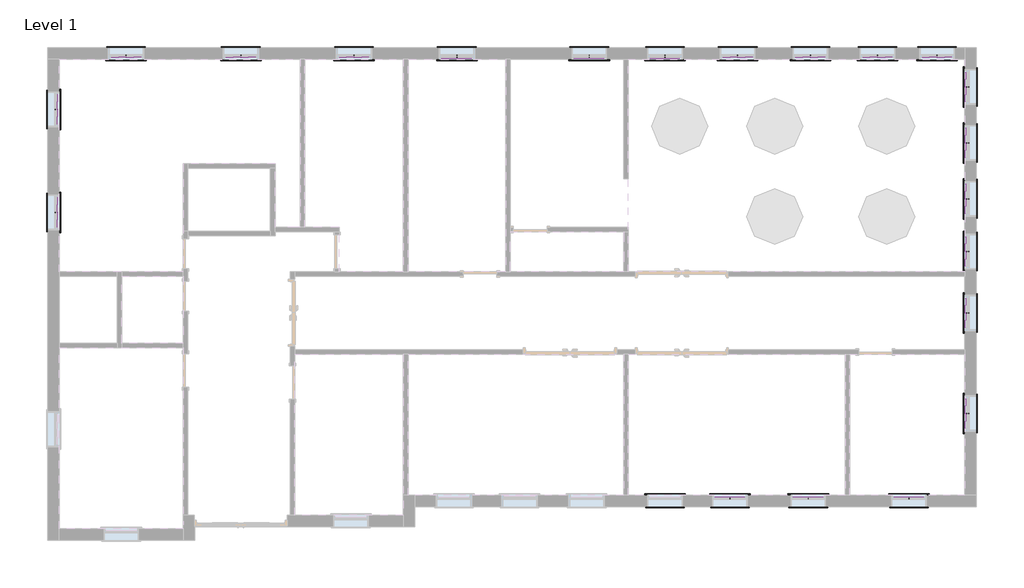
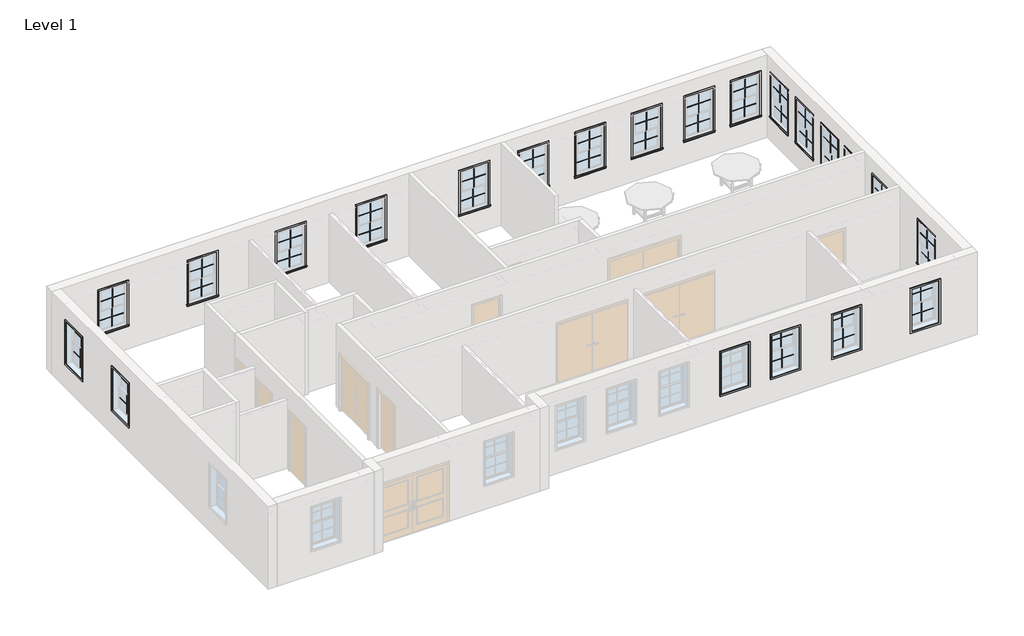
# One storey, part 3 of 3: 86 proxies.
"""IFC4 building model written with IfcOpenShell, lengths in millimetres."""

from ifc_helpers import new_model, si_unit, origin, place, context, project, spatial, transform, mapped, element, save
from components import muntin_pattern_2x2_muntin_pattern_2x2_3f1d5025, trim_window_exterior_flat_with_sill_11ed3377, trim_window_interior_flat_picture_frame_21512d7e

model = new_model("IFC4")

# Units and contexts
model_context = context("Model", 3, world=origin())
ifc_project = project(units=[si_unit("LENGTHUNIT", "METRE", prefix="MILLI")], contexts=[model_context])

# Site, building, storey
site = spatial("IfcSite", under=ifc_project)
building = spatial("IfcBuilding", under=site)
storey = spatial("IfcBuildingStorey", under=building, Name="Level 1", Elevation=0.0)

# Proxies
placement = place(None, origin())
muntin_pattern_2x2_muntin_pattern_2x2_shape = muntin_pattern_2x2_muntin_pattern_2x2_3f1d5025(model_context)
element("IfcBuildingElementProxy", 1, Name="Muntin Pattern_2x2 : Muntin Pattern_2x2", ObjectType="Muntin Pattern_2x2 : Muntin Pattern_2x2", at=placement, inside=storey, context=model_context, shape_type="MappedRepresentation", body=[
    mapped(muntin_pattern_2x2_muntin_pattern_2x2_shape, transform((4183.6666807, 6365.6417452, 1724.025), x_axis=(-1.0, 0.0, 0.0), y_axis=(0.0, -1.0, 0.0), z_axis=(0.0, 0.0, 1.0))),
])
element("IfcBuildingElementProxy", 2, Name="Muntin Pattern_2x2 : Muntin Pattern_2x2", ObjectType="Muntin Pattern_2x2 : Muntin Pattern_2x2", at=placement, inside=storey, context=model_context, shape_type="MappedRepresentation", body=[
    mapped(muntin_pattern_2x2_muntin_pattern_2x2_shape, transform((4183.6666807, 6410.0917452, 990.6), x_axis=(-1.0, 0.0, 0.0), y_axis=(0.0, -1.0, 0.0), z_axis=(0.0, 0.0, 1.0))),
])
element("IfcBuildingElementProxy", 3, Name="Muntin Pattern_2x2 : Muntin Pattern_2x2", ObjectType="Muntin Pattern_2x2 : Muntin Pattern_2x2", at=placement, inside=storey, context=model_context, shape_type="MappedRepresentation", body=[
    mapped(muntin_pattern_2x2_muntin_pattern_2x2_shape, transform((6164.8666807, 6365.6417452, 1724.025), x_axis=(-1.0, 0.0, 0.0), y_axis=(0.0, -1.0, 0.0), z_axis=(0.0, 0.0, 1.0))),
])
element("IfcBuildingElementProxy", 4, Name="Muntin Pattern_2x2 : Muntin Pattern_2x2", ObjectType="Muntin Pattern_2x2 : Muntin Pattern_2x2", at=placement, inside=storey, context=model_context, shape_type="MappedRepresentation", body=[
    mapped(muntin_pattern_2x2_muntin_pattern_2x2_shape, transform((6164.8666807, 6410.0917452, 990.6), x_axis=(-1.0, 0.0, 0.0), y_axis=(0.0, -1.0, 0.0), z_axis=(0.0, 0.0, 1.0))),
])
element("IfcBuildingElementProxy", 5, Name="Muntin Pattern_2x2 : Muntin Pattern_2x2", ObjectType="Muntin Pattern_2x2 : Muntin Pattern_2x2", at=placement, inside=storey, context=model_context, shape_type="MappedRepresentation", body=[
    mapped(muntin_pattern_2x2_muntin_pattern_2x2_shape, transform((8146.0666807, 6365.6417452, 1724.025), x_axis=(-1.0, 0.0, 0.0), y_axis=(0.0, -1.0, 0.0), z_axis=(0.0, 0.0, 1.0))),
])
element("IfcBuildingElementProxy", 6, Name="Muntin Pattern_2x2 : Muntin Pattern_2x2", ObjectType="Muntin Pattern_2x2 : Muntin Pattern_2x2", at=placement, inside=storey, context=model_context, shape_type="MappedRepresentation", body=[
    mapped(muntin_pattern_2x2_muntin_pattern_2x2_shape, transform((8146.0666807, 6410.0917452, 990.6), x_axis=(-1.0, 0.0, 0.0), y_axis=(0.0, -1.0, 0.0), z_axis=(0.0, 0.0, 1.0))),
])
element("IfcBuildingElementProxy", 7, Name="Muntin Pattern_2x2 : Muntin Pattern_2x2", ObjectType="Muntin Pattern_2x2 : Muntin Pattern_2x2", at=placement, inside=storey, context=model_context, shape_type="MappedRepresentation", body=[
    mapped(muntin_pattern_2x2_muntin_pattern_2x2_shape, transform((9974.8666807, 6365.6417452, 1724.025), x_axis=(-1.0, 0.0, 0.0), y_axis=(0.0, -1.0, 0.0), z_axis=(0.0, 0.0, 1.0))),
])
element("IfcBuildingElementProxy", 8, Name="Muntin Pattern_2x2 : Muntin Pattern_2x2", ObjectType="Muntin Pattern_2x2 : Muntin Pattern_2x2", at=placement, inside=storey, context=model_context, shape_type="MappedRepresentation", body=[
    mapped(muntin_pattern_2x2_muntin_pattern_2x2_shape, transform((9974.8666807, 6410.0917452, 990.6), x_axis=(-1.0, 0.0, 0.0), y_axis=(0.0, -1.0, 0.0), z_axis=(0.0, 0.0, 1.0))),
])
element("IfcBuildingElementProxy", 9, Name="Muntin Pattern_2x2 : Muntin Pattern_2x2", ObjectType="Muntin Pattern_2x2 : Muntin Pattern_2x2", at=placement, inside=storey, context=model_context, shape_type="MappedRepresentation", body=[
    mapped(muntin_pattern_2x2_muntin_pattern_2x2_shape, transform((11596.7284774, 6365.6417452, 1724.025), x_axis=(-1.0, 0.0, 0.0), y_axis=(0.0, -1.0, 0.0), z_axis=(0.0, 0.0, 1.0))),
])
element("IfcBuildingElementProxy", 10, Name="Muntin Pattern_2x2 : Muntin Pattern_2x2", ObjectType="Muntin Pattern_2x2 : Muntin Pattern_2x2", at=placement, inside=storey, context=model_context, shape_type="MappedRepresentation", body=[
    mapped(muntin_pattern_2x2_muntin_pattern_2x2_shape, transform((11596.7284774, 6410.0917452, 990.6), x_axis=(-1.0, 0.0, 0.0), y_axis=(0.0, -1.0, 0.0), z_axis=(0.0, 0.0, 1.0))),
])
element("IfcBuildingElementProxy", 11, Name="Muntin Pattern_2x2 : Muntin Pattern_2x2", ObjectType="Muntin Pattern_2x2 : Muntin Pattern_2x2", at=placement, inside=storey, context=model_context, shape_type="MappedRepresentation", body=[
    mapped(muntin_pattern_2x2_muntin_pattern_2x2_shape, transform((12390.4784774, 5571.8917452, 1724.025), x_axis=(0.0, 1.0, 0.0), y_axis=(-1.0, 0.0, 0.0), z_axis=(0.0, 0.0, 1.0))),
])
element("IfcBuildingElementProxy", 12, Name="Muntin Pattern_2x2 : Muntin Pattern_2x2", ObjectType="Muntin Pattern_2x2 : Muntin Pattern_2x2", at=placement, inside=storey, context=model_context, shape_type="MappedRepresentation", body=[
    mapped(muntin_pattern_2x2_muntin_pattern_2x2_shape, transform((12434.9284774, 5571.8917452, 990.6), x_axis=(0.0, 1.0, 0.0), y_axis=(-1.0, 0.0, 0.0), z_axis=(0.0, 0.0, 1.0))),
])
element("IfcBuildingElementProxy", 13, Name="Muntin Pattern_2x2 : Muntin Pattern_2x2", ObjectType="Muntin Pattern_2x2 : Muntin Pattern_2x2", at=placement, inside=storey, context=model_context, shape_type="MappedRepresentation", body=[
    mapped(muntin_pattern_2x2_muntin_pattern_2x2_shape, transform((12390.4784774, 4047.8917452, 1724.025), x_axis=(0.0, 1.0, 0.0), y_axis=(-1.0, 0.0, 0.0), z_axis=(0.0, 0.0, 1.0))),
])
element("IfcBuildingElementProxy", 14, Name="Muntin Pattern_2x2 : Muntin Pattern_2x2", ObjectType="Muntin Pattern_2x2 : Muntin Pattern_2x2", at=placement, inside=storey, context=model_context, shape_type="MappedRepresentation", body=[
    mapped(muntin_pattern_2x2_muntin_pattern_2x2_shape, transform((12434.9284774, 4047.8917452, 990.6), x_axis=(0.0, 1.0, 0.0), y_axis=(-1.0, 0.0, 0.0), z_axis=(0.0, 0.0, 1.0))),
])
element("IfcBuildingElementProxy", 15, Name="Muntin Pattern_2x2 : Muntin Pattern_2x2", ObjectType="Muntin Pattern_2x2 : Muntin Pattern_2x2", at=placement, inside=storey, context=model_context, shape_type="MappedRepresentation", body=[
    mapped(muntin_pattern_2x2_muntin_pattern_2x2_shape, transform((12390.4784774, 2523.8917452, 1724.025), x_axis=(0.0, 1.0, 0.0), y_axis=(-1.0, 0.0, 0.0), z_axis=(0.0, 0.0, 1.0))),
])
element("IfcBuildingElementProxy", 16, Name="Muntin Pattern_2x2 : Muntin Pattern_2x2", ObjectType="Muntin Pattern_2x2 : Muntin Pattern_2x2", at=placement, inside=storey, context=model_context, shape_type="MappedRepresentation", body=[
    mapped(muntin_pattern_2x2_muntin_pattern_2x2_shape, transform((12434.9284774, 2523.8917452, 990.6), x_axis=(0.0, 1.0, 0.0), y_axis=(-1.0, 0.0, 0.0), z_axis=(0.0, 0.0, 1.0))),
])
element("IfcBuildingElementProxy", 17, Name="Muntin Pattern_2x2 : Muntin Pattern_2x2", ObjectType="Muntin Pattern_2x2 : Muntin Pattern_2x2", at=placement, inside=storey, context=model_context, shape_type="MappedRepresentation", body=[
    mapped(muntin_pattern_2x2_muntin_pattern_2x2_shape, transform((12390.4784774, 1087.0237982, 1724.025), x_axis=(0.0, 1.0, 0.0), y_axis=(-1.0, 0.0, 0.0), z_axis=(0.0, 0.0, 1.0))),
])
element("IfcBuildingElementProxy", 18, Name="Muntin Pattern_2x2 : Muntin Pattern_2x2", ObjectType="Muntin Pattern_2x2 : Muntin Pattern_2x2", at=placement, inside=storey, context=model_context, shape_type="MappedRepresentation", body=[
    mapped(muntin_pattern_2x2_muntin_pattern_2x2_shape, transform((12434.9284774, 1087.0237982, 990.6), x_axis=(0.0, 1.0, 0.0), y_axis=(-1.0, 0.0, 0.0), z_axis=(0.0, 0.0, 1.0))),
])
element("IfcBuildingElementProxy", 19, Name="Muntin Pattern_2x2 : Muntin Pattern_2x2", ObjectType="Muntin Pattern_2x2 : Muntin Pattern_2x2", at=placement, inside=storey, context=model_context, shape_type="MappedRepresentation", body=[
    mapped(muntin_pattern_2x2_muntin_pattern_2x2_shape, transform((12390.4784774, -585.4878233, 1724.025), x_axis=(0.0, 1.0, 0.0), y_axis=(-1.0, 0.0, 0.0), z_axis=(0.0, 0.0, 1.0))),
])
element("IfcBuildingElementProxy", 20, Name="Muntin Pattern_2x2 : Muntin Pattern_2x2", ObjectType="Muntin Pattern_2x2 : Muntin Pattern_2x2", at=placement, inside=storey, context=model_context, shape_type="MappedRepresentation", body=[
    mapped(muntin_pattern_2x2_muntin_pattern_2x2_shape, transform((12434.9284774, -585.4878233, 990.6), x_axis=(0.0, 1.0, 0.0), y_axis=(-1.0, 0.0, 0.0), z_axis=(0.0, 0.0, 1.0))),
])
element("IfcBuildingElementProxy", 21, Name="Muntin Pattern_2x2 : Muntin Pattern_2x2", ObjectType="Muntin Pattern_2x2 : Muntin Pattern_2x2", at=placement, inside=storey, context=model_context, shape_type="MappedRepresentation", body=[
    mapped(muntin_pattern_2x2_muntin_pattern_2x2_shape, transform((12390.4784774, -3324.7994449, 1724.025), x_axis=(0.0, 1.0, 0.0), y_axis=(-1.0, 0.0, 0.0), z_axis=(0.0, 0.0, 1.0))),
])
element("IfcBuildingElementProxy", 22, Name="Muntin Pattern_2x2 : Muntin Pattern_2x2", ObjectType="Muntin Pattern_2x2 : Muntin Pattern_2x2", at=placement, inside=storey, context=model_context, shape_type="MappedRepresentation", body=[
    mapped(muntin_pattern_2x2_muntin_pattern_2x2_shape, transform((12434.9284774, -3324.7994449, 990.6), x_axis=(0.0, 1.0, 0.0), y_axis=(-1.0, 0.0, 0.0), z_axis=(0.0, 0.0, 1.0))),
])
element("IfcBuildingElementProxy", 23, Name="Muntin Pattern_2x2 : Muntin Pattern_2x2", ObjectType="Muntin Pattern_2x2 : Muntin Pattern_2x2", at=placement, inside=storey, context=model_context, shape_type="MappedRepresentation", body=[
    mapped(muntin_pattern_2x2_muntin_pattern_2x2_shape, transform((10832.4883888, -5585.0582548, 1724.025), x_axis=(1.0, 0.0, 0.0), y_axis=(0.0, 1.0, 0.0), z_axis=(0.0, 0.0, 1.0))),
])
element("IfcBuildingElementProxy", 24, Name="Muntin Pattern_2x2 : Muntin Pattern_2x2", ObjectType="Muntin Pattern_2x2 : Muntin Pattern_2x2", at=placement, inside=storey, context=model_context, shape_type="MappedRepresentation", body=[
    mapped(muntin_pattern_2x2_muntin_pattern_2x2_shape, transform((10832.4883888, -5629.5082548, 990.6), x_axis=(1.0, 0.0, 0.0), y_axis=(0.0, 1.0, 0.0), z_axis=(0.0, 0.0, 1.0))),
])
element("IfcBuildingElementProxy", 25, Name="Muntin Pattern_2x2 : Muntin Pattern_2x2", ObjectType="Muntin Pattern_2x2 : Muntin Pattern_2x2", at=placement, inside=storey, context=model_context, shape_type="MappedRepresentation", body=[
    mapped(muntin_pattern_2x2_muntin_pattern_2x2_shape, transform((8087.0483002, -5585.0582548, 1724.025), x_axis=(1.0, 0.0, 0.0), y_axis=(0.0, 1.0, 0.0), z_axis=(0.0, 0.0, 1.0))),
])
element("IfcBuildingElementProxy", 26, Name="Muntin Pattern_2x2 : Muntin Pattern_2x2", ObjectType="Muntin Pattern_2x2 : Muntin Pattern_2x2", at=placement, inside=storey, context=model_context, shape_type="MappedRepresentation", body=[
    mapped(muntin_pattern_2x2_muntin_pattern_2x2_shape, transform((8087.0483002, -5629.5082548, 990.6), x_axis=(1.0, 0.0, 0.0), y_axis=(0.0, 1.0, 0.0), z_axis=(0.0, 0.0, 1.0))),
])
element("IfcBuildingElementProxy", 27, Name="Muntin Pattern_2x2 : Muntin Pattern_2x2", ObjectType="Muntin Pattern_2x2 : Muntin Pattern_2x2", at=placement, inside=storey, context=model_context, shape_type="MappedRepresentation", body=[
    mapped(muntin_pattern_2x2_muntin_pattern_2x2_shape, transform((5953.4483002, -5585.0582548, 1724.025), x_axis=(1.0, 0.0, 0.0), y_axis=(0.0, 1.0, 0.0), z_axis=(0.0, 0.0, 1.0))),
])
element("IfcBuildingElementProxy", 28, Name="Muntin Pattern_2x2 : Muntin Pattern_2x2", ObjectType="Muntin Pattern_2x2 : Muntin Pattern_2x2", at=placement, inside=storey, context=model_context, shape_type="MappedRepresentation", body=[
    mapped(muntin_pattern_2x2_muntin_pattern_2x2_shape, transform((5953.4483002, -5629.5082548, 990.6), x_axis=(1.0, 0.0, 0.0), y_axis=(0.0, 1.0, 0.0), z_axis=(0.0, 0.0, 1.0))),
])
element("IfcBuildingElementProxy", 29, Name="Muntin Pattern_2x2 : Muntin Pattern_2x2", ObjectType="Muntin Pattern_2x2 : Muntin Pattern_2x2", at=placement, inside=storey, context=model_context, shape_type="MappedRepresentation", body=[
    mapped(muntin_pattern_2x2_muntin_pattern_2x2_shape, transform((2119.2580852, 6365.6417452, 1724.025), x_axis=(-1.0, 0.0, 0.0), y_axis=(0.0, -1.0, 0.0), z_axis=(0.0, 0.0, 1.0))),
])
element("IfcBuildingElementProxy", 30, Name="Muntin Pattern_2x2 : Muntin Pattern_2x2", ObjectType="Muntin Pattern_2x2 : Muntin Pattern_2x2", at=placement, inside=storey, context=model_context, shape_type="MappedRepresentation", body=[
    mapped(muntin_pattern_2x2_muntin_pattern_2x2_shape, transform((2119.2580852, 6410.0917452, 990.6), x_axis=(-1.0, 0.0, 0.0), y_axis=(0.0, -1.0, 0.0), z_axis=(0.0, 0.0, 1.0))),
])
element("IfcBuildingElementProxy", 31, Name="Muntin Pattern_2x2 : Muntin Pattern_2x2", ObjectType="Muntin Pattern_2x2 : Muntin Pattern_2x2", at=placement, inside=storey, context=model_context, shape_type="MappedRepresentation", body=[
    mapped(muntin_pattern_2x2_muntin_pattern_2x2_shape, transform((-1489.3347309, 6365.6417452, 1724.025), x_axis=(-1.0, 0.0, 0.0), y_axis=(0.0, -1.0, 0.0), z_axis=(0.0, 0.0, 1.0))),
])
element("IfcBuildingElementProxy", 32, Name="Muntin Pattern_2x2 : Muntin Pattern_2x2", ObjectType="Muntin Pattern_2x2 : Muntin Pattern_2x2", at=placement, inside=storey, context=model_context, shape_type="MappedRepresentation", body=[
    mapped(muntin_pattern_2x2_muntin_pattern_2x2_shape, transform((-1489.3347309, 6410.0917452, 990.6), x_axis=(-1.0, 0.0, 0.0), y_axis=(0.0, -1.0, 0.0), z_axis=(0.0, 0.0, 1.0))),
])
element("IfcBuildingElementProxy", 33, Name="Muntin Pattern_2x2 : Muntin Pattern_2x2", ObjectType="Muntin Pattern_2x2 : Muntin Pattern_2x2", at=placement, inside=storey, context=model_context, shape_type="MappedRepresentation", body=[
    mapped(muntin_pattern_2x2_muntin_pattern_2x2_shape, transform((-4290.4697116, 6365.6417452, 1724.025), x_axis=(-1.0, 0.0, 0.0), y_axis=(0.0, -1.0, 0.0), z_axis=(0.0, 0.0, 1.0))),
])
element("IfcBuildingElementProxy", 34, Name="Muntin Pattern_2x2 : Muntin Pattern_2x2", ObjectType="Muntin Pattern_2x2 : Muntin Pattern_2x2", at=placement, inside=storey, context=model_context, shape_type="MappedRepresentation", body=[
    mapped(muntin_pattern_2x2_muntin_pattern_2x2_shape, transform((-4290.4697116, 6410.0917452, 990.6), x_axis=(-1.0, 0.0, 0.0), y_axis=(0.0, -1.0, 0.0), z_axis=(0.0, 0.0, 1.0))),
])
element("IfcBuildingElementProxy", 35, Name="Muntin Pattern_2x2 : Muntin Pattern_2x2", ObjectType="Muntin Pattern_2x2 : Muntin Pattern_2x2", at=placement, inside=storey, context=model_context, shape_type="MappedRepresentation", body=[
    mapped(muntin_pattern_2x2_muntin_pattern_2x2_shape, transform((-7376.2204716, 6365.6417452, 1724.025), x_axis=(-1.0, 0.0, 0.0), y_axis=(0.0, -1.0, 0.0), z_axis=(0.0, 0.0, 1.0))),
])
element("IfcBuildingElementProxy", 36, Name="Muntin Pattern_2x2 : Muntin Pattern_2x2", ObjectType="Muntin Pattern_2x2 : Muntin Pattern_2x2", at=placement, inside=storey, context=model_context, shape_type="MappedRepresentation", body=[
    mapped(muntin_pattern_2x2_muntin_pattern_2x2_shape, transform((-7376.2204716, 6410.0917452, 990.6), x_axis=(-1.0, 0.0, 0.0), y_axis=(0.0, -1.0, 0.0), z_axis=(0.0, 0.0, 1.0))),
])
element("IfcBuildingElementProxy", 37, Name="Muntin Pattern_2x2 : Muntin Pattern_2x2", ObjectType="Muntin Pattern_2x2 : Muntin Pattern_2x2", at=placement, inside=storey, context=model_context, shape_type="MappedRepresentation", body=[
    mapped(muntin_pattern_2x2_muntin_pattern_2x2_shape, transform((-10501.2715226, 6365.6417452, 1724.025), x_axis=(-1.0, 0.0, 0.0), y_axis=(0.0, -1.0, 0.0), z_axis=(0.0, 0.0, 1.0))),
])
element("IfcBuildingElementProxy", 38, Name="Muntin Pattern_2x2 : Muntin Pattern_2x2", ObjectType="Muntin Pattern_2x2 : Muntin Pattern_2x2", at=placement, inside=storey, context=model_context, shape_type="MappedRepresentation", body=[
    mapped(muntin_pattern_2x2_muntin_pattern_2x2_shape, transform((-10501.2715226, 6410.0917452, 990.6), x_axis=(-1.0, 0.0, 0.0), y_axis=(0.0, -1.0, 0.0), z_axis=(0.0, 0.0, 1.0))),
])
element("IfcBuildingElementProxy", 39, Name="Muntin Pattern_2x2 : Muntin Pattern_2x2", ObjectType="Muntin Pattern_2x2 : Muntin Pattern_2x2", at=placement, inside=storey, context=model_context, shape_type="MappedRepresentation", body=[
    mapped(muntin_pattern_2x2_muntin_pattern_2x2_shape, transform((-12361.8215226, 4962.2917452, 1724.025), x_axis=(0.0, -1.0, 0.0), y_axis=(1.0, 0.0, 0.0), z_axis=(0.0, 0.0, 1.0))),
])
element("IfcBuildingElementProxy", 40, Name="Muntin Pattern_2x2 : Muntin Pattern_2x2", ObjectType="Muntin Pattern_2x2 : Muntin Pattern_2x2", at=placement, inside=storey, context=model_context, shape_type="MappedRepresentation", body=[
    mapped(muntin_pattern_2x2_muntin_pattern_2x2_shape, transform((-12406.2715226, 4962.2917452, 990.6), x_axis=(0.0, -1.0, 0.0), y_axis=(1.0, 0.0, 0.0), z_axis=(0.0, 0.0, 1.0))),
])
element("IfcBuildingElementProxy", 41, Name="Muntin Pattern_2x2 : Muntin Pattern_2x2", ObjectType="Muntin Pattern_2x2 : Muntin Pattern_2x2", at=placement, inside=storey, context=model_context, shape_type="MappedRepresentation", body=[
    mapped(muntin_pattern_2x2_muntin_pattern_2x2_shape, transform((-12361.8215226, 2153.8237982, 1724.025), x_axis=(0.0, -1.0, 0.0), y_axis=(1.0, 0.0, 0.0), z_axis=(0.0, 0.0, 1.0))),
])
element("IfcBuildingElementProxy", 42, Name="Muntin Pattern_2x2 : Muntin Pattern_2x2", ObjectType="Muntin Pattern_2x2 : Muntin Pattern_2x2", at=placement, inside=storey, context=model_context, shape_type="MappedRepresentation", body=[
    mapped(muntin_pattern_2x2_muntin_pattern_2x2_shape, transform((-12406.2715226, 2153.8237982, 990.6), x_axis=(0.0, -1.0, 0.0), y_axis=(1.0, 0.0, 0.0), z_axis=(0.0, 0.0, 1.0))),
])
trim_window_exterior_flat_with_sill_shape = trim_window_exterior_flat_with_sill_11ed3377(model_context)
element("IfcBuildingElementProxy", 43, Name="Trim-Window-Exterior-Flat : with Sill", ObjectType="Trim-Window-Exterior-Flat : with Sill", at=placement, inside=storey, context=model_context, shape_type="MappedRepresentation", body=[
    mapped(trim_window_exterior_flat_with_sill_shape, transform((4183.6666807, 6330.7167452, 2489.2), x_axis=(1.0, 0.0, 0.0), y_axis=(0.0, 0.0, 1.0), z_axis=(0.0, -1.0, 0.0))),
])
element("IfcBuildingElementProxy", 44, Name="Trim-Window-Exterior-Flat : with Sill", ObjectType="Trim-Window-Exterior-Flat : with Sill", at=placement, inside=storey, context=model_context, shape_type="MappedRepresentation", body=[
    mapped(trim_window_exterior_flat_with_sill_shape, transform((6164.8666807, 6330.7167452, 2489.2), x_axis=(1.0, 0.0, 0.0), y_axis=(0.0, 0.0, 1.0), z_axis=(0.0, -1.0, 0.0))),
])
element("IfcBuildingElementProxy", 45, Name="Trim-Window-Exterior-Flat : with Sill", ObjectType="Trim-Window-Exterior-Flat : with Sill", at=placement, inside=storey, context=model_context, shape_type="MappedRepresentation", body=[
    mapped(trim_window_exterior_flat_with_sill_shape, transform((8146.0666807, 6330.7167452, 2489.2), x_axis=(1.0, 0.0, 0.0), y_axis=(0.0, 0.0, 1.0), z_axis=(0.0, -1.0, 0.0))),
])
element("IfcBuildingElementProxy", 46, Name="Trim-Window-Exterior-Flat : with Sill", ObjectType="Trim-Window-Exterior-Flat : with Sill", at=placement, inside=storey, context=model_context, shape_type="MappedRepresentation", body=[
    mapped(trim_window_exterior_flat_with_sill_shape, transform((9974.8666807, 6330.7167452, 2489.2), x_axis=(1.0, 0.0, 0.0), y_axis=(0.0, 0.0, 1.0), z_axis=(0.0, -1.0, 0.0))),
])
element("IfcBuildingElementProxy", 47, Name="Trim-Window-Exterior-Flat : with Sill", ObjectType="Trim-Window-Exterior-Flat : with Sill", at=placement, inside=storey, context=model_context, shape_type="MappedRepresentation", body=[
    mapped(trim_window_exterior_flat_with_sill_shape, transform((11596.7284774, 6330.7167452, 2489.2), x_axis=(1.0, 0.0, 0.0), y_axis=(0.0, 0.0, 1.0), z_axis=(0.0, -1.0, 0.0))),
])
element("IfcBuildingElementProxy", 48, Name="Trim-Window-Exterior-Flat : with Sill", ObjectType="Trim-Window-Exterior-Flat : with Sill", at=placement, inside=storey, context=model_context, shape_type="MappedRepresentation", body=[
    mapped(trim_window_exterior_flat_with_sill_shape, transform((12355.5534774, 5571.8917452, 2489.2), x_axis=(0.0, -1.0, 0.0), y_axis=(0.0, 0.0, 1.0), z_axis=(-1.0, 0.0, 0.0))),
])
element("IfcBuildingElementProxy", 49, Name="Trim-Window-Exterior-Flat : with Sill", ObjectType="Trim-Window-Exterior-Flat : with Sill", at=placement, inside=storey, context=model_context, shape_type="MappedRepresentation", body=[
    mapped(trim_window_exterior_flat_with_sill_shape, transform((12355.5534774, 4047.8917452, 2489.2), x_axis=(0.0, -1.0, 0.0), y_axis=(0.0, 0.0, 1.0), z_axis=(-1.0, 0.0, 0.0))),
])
element("IfcBuildingElementProxy", 50, Name="Trim-Window-Exterior-Flat : with Sill", ObjectType="Trim-Window-Exterior-Flat : with Sill", at=placement, inside=storey, context=model_context, shape_type="MappedRepresentation", body=[
    mapped(trim_window_exterior_flat_with_sill_shape, transform((12355.5534774, 2523.8917452, 2489.2), x_axis=(0.0, -1.0, 0.0), y_axis=(0.0, 0.0, 1.0), z_axis=(-1.0, 0.0, 0.0))),
])
element("IfcBuildingElementProxy", 51, Name="Trim-Window-Exterior-Flat : with Sill", ObjectType="Trim-Window-Exterior-Flat : with Sill", at=placement, inside=storey, context=model_context, shape_type="MappedRepresentation", body=[
    mapped(trim_window_exterior_flat_with_sill_shape, transform((12355.5534774, 1087.0237982, 2489.2), x_axis=(0.0, -1.0, 0.0), y_axis=(0.0, 0.0, 1.0), z_axis=(-1.0, 0.0, 0.0))),
])
element("IfcBuildingElementProxy", 52, Name="Trim-Window-Exterior-Flat : with Sill", ObjectType="Trim-Window-Exterior-Flat : with Sill", at=placement, inside=storey, context=model_context, shape_type="MappedRepresentation", body=[
    mapped(trim_window_exterior_flat_with_sill_shape, transform((12355.5534774, -585.4878233, 2489.2), x_axis=(0.0, -1.0, 0.0), y_axis=(0.0, 0.0, 1.0), z_axis=(-1.0, 0.0, 0.0))),
])
element("IfcBuildingElementProxy", 53, Name="Trim-Window-Exterior-Flat : with Sill", ObjectType="Trim-Window-Exterior-Flat : with Sill", at=placement, inside=storey, context=model_context, shape_type="MappedRepresentation", body=[
    mapped(trim_window_exterior_flat_with_sill_shape, transform((12355.5534774, -3324.7994449, 2489.2), x_axis=(0.0, -1.0, 0.0), y_axis=(0.0, 0.0, 1.0), z_axis=(-1.0, 0.0, 0.0))),
])
element("IfcBuildingElementProxy", 54, Name="Trim-Window-Exterior-Flat : with Sill", ObjectType="Trim-Window-Exterior-Flat : with Sill", at=placement, inside=storey, context=model_context, shape_type="MappedRepresentation", body=[
    mapped(trim_window_exterior_flat_with_sill_shape, transform((10832.4883888, -5550.1332548, 2489.2), x_axis=(-1.0, 0.0, 0.0), y_axis=(0.0, 0.0, 1.0), z_axis=(0.0, 1.0, 0.0))),
])
element("IfcBuildingElementProxy", 55, Name="Trim-Window-Exterior-Flat : with Sill", ObjectType="Trim-Window-Exterior-Flat : with Sill", at=placement, inside=storey, context=model_context, shape_type="MappedRepresentation", body=[
    mapped(trim_window_exterior_flat_with_sill_shape, transform((8087.0483002, -5550.1332548, 2489.2), x_axis=(-1.0, 0.0, 0.0), y_axis=(0.0, 0.0, 1.0), z_axis=(0.0, 1.0, 0.0))),
])
element("IfcBuildingElementProxy", 56, Name="Trim-Window-Exterior-Flat : with Sill", ObjectType="Trim-Window-Exterior-Flat : with Sill", at=placement, inside=storey, context=model_context, shape_type="MappedRepresentation", body=[
    mapped(trim_window_exterior_flat_with_sill_shape, transform((5953.4483002, -5550.1332548, 2489.2), x_axis=(-1.0, 0.0, 0.0), y_axis=(0.0, 0.0, 1.0), z_axis=(0.0, 1.0, 0.0))),
])
element("IfcBuildingElementProxy", 57, Name="Trim-Window-Exterior-Flat : with Sill", ObjectType="Trim-Window-Exterior-Flat : with Sill", at=placement, inside=storey, context=model_context, shape_type="MappedRepresentation", body=[
    mapped(trim_window_exterior_flat_with_sill_shape, transform((4183.6666807, -5550.1332548, 2489.2), x_axis=(-1.0, 0.0, 0.0), y_axis=(0.0, 0.0, 1.0), z_axis=(0.0, 1.0, 0.0))),
])
element("IfcBuildingElementProxy", 58, Name="Trim-Window-Exterior-Flat : with Sill", ObjectType="Trim-Window-Exterior-Flat : with Sill", at=placement, inside=storey, context=model_context, shape_type="MappedRepresentation", body=[
    mapped(trim_window_exterior_flat_with_sill_shape, transform((2119.2580852, 6330.7167452, 2489.2), x_axis=(1.0, 0.0, 0.0), y_axis=(0.0, 0.0, 1.0), z_axis=(0.0, -1.0, 0.0))),
])
element("IfcBuildingElementProxy", 59, Name="Trim-Window-Exterior-Flat : with Sill", ObjectType="Trim-Window-Exterior-Flat : with Sill", at=placement, inside=storey, context=model_context, shape_type="MappedRepresentation", body=[
    mapped(trim_window_exterior_flat_with_sill_shape, transform((-1489.3347309, 6330.7167452, 2489.2), x_axis=(1.0, 0.0, 0.0), y_axis=(0.0, 0.0, 1.0), z_axis=(0.0, -1.0, 0.0))),
])
element("IfcBuildingElementProxy", 60, Name="Trim-Window-Exterior-Flat : with Sill", ObjectType="Trim-Window-Exterior-Flat : with Sill", at=placement, inside=storey, context=model_context, shape_type="MappedRepresentation", body=[
    mapped(trim_window_exterior_flat_with_sill_shape, transform((-4290.4697116, 6330.7167452, 2489.2), x_axis=(1.0, 0.0, 0.0), y_axis=(0.0, 0.0, 1.0), z_axis=(0.0, -1.0, 0.0))),
])
element("IfcBuildingElementProxy", 61, Name="Trim-Window-Exterior-Flat : with Sill", ObjectType="Trim-Window-Exterior-Flat : with Sill", at=placement, inside=storey, context=model_context, shape_type="MappedRepresentation", body=[
    mapped(trim_window_exterior_flat_with_sill_shape, transform((-7376.2204716, 6330.7167452, 2489.2), x_axis=(1.0, 0.0, 0.0), y_axis=(0.0, 0.0, 1.0), z_axis=(0.0, -1.0, 0.0))),
])
element("IfcBuildingElementProxy", 62, Name="Trim-Window-Exterior-Flat : with Sill", ObjectType="Trim-Window-Exterior-Flat : with Sill", at=placement, inside=storey, context=model_context, shape_type="MappedRepresentation", body=[
    mapped(trim_window_exterior_flat_with_sill_shape, transform((-10501.2715226, 6330.7167452, 2489.2), x_axis=(1.0, 0.0, 0.0), y_axis=(0.0, 0.0, 1.0), z_axis=(0.0, -1.0, 0.0))),
])
element("IfcBuildingElementProxy", 63, Name="Trim-Window-Exterior-Flat : with Sill", ObjectType="Trim-Window-Exterior-Flat : with Sill", at=placement, inside=storey, context=model_context, shape_type="MappedRepresentation", body=[
    mapped(trim_window_exterior_flat_with_sill_shape, transform((-12326.8965226, 4962.2917452, 2489.2), x_axis=(0.0, 1.0, 0.0), y_axis=(0.0, 0.0, 1.0), z_axis=(1.0, 0.0, 0.0))),
])
element("IfcBuildingElementProxy", 64, Name="Trim-Window-Exterior-Flat : with Sill", ObjectType="Trim-Window-Exterior-Flat : with Sill", at=placement, inside=storey, context=model_context, shape_type="MappedRepresentation", body=[
    mapped(trim_window_exterior_flat_with_sill_shape, transform((-12326.8965226, 2153.8237982, 2489.2), x_axis=(0.0, 1.0, 0.0), y_axis=(0.0, 0.0, 1.0), z_axis=(1.0, 0.0, 0.0))),
])
trim_window_interior_flat_picture_frame_shape = trim_window_interior_flat_picture_frame_21512d7e(model_context)
element("IfcBuildingElementProxy", 65, Name="Trim-Window-Interior-Flat : Picture Frame", ObjectType="Trim-Window-Interior-Flat : Picture Frame", at=placement, inside=storey, context=model_context, shape_type="MappedRepresentation", body=[
    mapped(trim_window_interior_flat_picture_frame_shape, transform((4183.6666807, 6641.8667452, 2489.2), x_axis=(-1.0, 0.0, 0.0), y_axis=(0.0, 0.0, 1.0), z_axis=(0.0, 1.0, 0.0))),
])
element("IfcBuildingElementProxy", 66, Name="Trim-Window-Interior-Flat : Picture Frame", ObjectType="Trim-Window-Interior-Flat : Picture Frame", at=placement, inside=storey, context=model_context, shape_type="MappedRepresentation", body=[
    mapped(trim_window_interior_flat_picture_frame_shape, transform((6164.8666807, 6641.8667452, 2489.2), x_axis=(-1.0, 0.0, 0.0), y_axis=(0.0, 0.0, 1.0), z_axis=(0.0, 1.0, 0.0))),
])
element("IfcBuildingElementProxy", 67, Name="Trim-Window-Interior-Flat : Picture Frame", ObjectType="Trim-Window-Interior-Flat : Picture Frame", at=placement, inside=storey, context=model_context, shape_type="MappedRepresentation", body=[
    mapped(trim_window_interior_flat_picture_frame_shape, transform((8146.0666807, 6641.8667452, 2489.2), x_axis=(-1.0, 0.0, 0.0), y_axis=(0.0, 0.0, 1.0), z_axis=(0.0, 1.0, 0.0))),
])
element("IfcBuildingElementProxy", 68, Name="Trim-Window-Interior-Flat : Picture Frame", ObjectType="Trim-Window-Interior-Flat : Picture Frame", at=placement, inside=storey, context=model_context, shape_type="MappedRepresentation", body=[
    mapped(trim_window_interior_flat_picture_frame_shape, transform((9974.8666807, 6641.8667452, 2489.2), x_axis=(-1.0, 0.0, 0.0), y_axis=(0.0, 0.0, 1.0), z_axis=(0.0, 1.0, 0.0))),
])
element("IfcBuildingElementProxy", 69, Name="Trim-Window-Interior-Flat : Picture Frame", ObjectType="Trim-Window-Interior-Flat : Picture Frame", at=placement, inside=storey, context=model_context, shape_type="MappedRepresentation", body=[
    mapped(trim_window_interior_flat_picture_frame_shape, transform((11596.7284774, 6641.8667452, 2489.2), x_axis=(-1.0, 0.0, 0.0), y_axis=(0.0, 0.0, 1.0), z_axis=(0.0, 1.0, 0.0))),
])
element("IfcBuildingElementProxy", 70, Name="Trim-Window-Interior-Flat : Picture Frame", ObjectType="Trim-Window-Interior-Flat : Picture Frame", at=placement, inside=storey, context=model_context, shape_type="MappedRepresentation", body=[
    mapped(trim_window_interior_flat_picture_frame_shape, transform((12666.7034774, 5571.8917452, 2489.2), x_axis=(0.0, 1.0, 0.0), y_axis=(0.0, 0.0, 1.0), z_axis=(1.0, 0.0, 0.0))),
])
element("IfcBuildingElementProxy", 71, Name="Trim-Window-Interior-Flat : Picture Frame", ObjectType="Trim-Window-Interior-Flat : Picture Frame", at=placement, inside=storey, context=model_context, shape_type="MappedRepresentation", body=[
    mapped(trim_window_interior_flat_picture_frame_shape, transform((12666.7034774, 4047.8917452, 2489.2), x_axis=(0.0, 1.0, 0.0), y_axis=(0.0, 0.0, 1.0), z_axis=(1.0, 0.0, 0.0))),
])
element("IfcBuildingElementProxy", 72, Name="Trim-Window-Interior-Flat : Picture Frame", ObjectType="Trim-Window-Interior-Flat : Picture Frame", at=placement, inside=storey, context=model_context, shape_type="MappedRepresentation", body=[
    mapped(trim_window_interior_flat_picture_frame_shape, transform((12666.7034774, 2523.8917452, 2489.2), x_axis=(0.0, 1.0, 0.0), y_axis=(0.0, 0.0, 1.0), z_axis=(1.0, 0.0, 0.0))),
])
element("IfcBuildingElementProxy", 73, Name="Trim-Window-Interior-Flat : Picture Frame", ObjectType="Trim-Window-Interior-Flat : Picture Frame", at=placement, inside=storey, context=model_context, shape_type="MappedRepresentation", body=[
    mapped(trim_window_interior_flat_picture_frame_shape, transform((12666.7034774, 1087.0237982, 2489.2), x_axis=(0.0, 1.0, 0.0), y_axis=(0.0, 0.0, 1.0), z_axis=(1.0, 0.0, 0.0))),
])
element("IfcBuildingElementProxy", 74, Name="Trim-Window-Interior-Flat : Picture Frame", ObjectType="Trim-Window-Interior-Flat : Picture Frame", at=placement, inside=storey, context=model_context, shape_type="MappedRepresentation", body=[
    mapped(trim_window_interior_flat_picture_frame_shape, transform((12666.7034774, -585.4878233, 2489.2), x_axis=(0.0, 1.0, 0.0), y_axis=(0.0, 0.0, 1.0), z_axis=(1.0, 0.0, 0.0))),
])
element("IfcBuildingElementProxy", 75, Name="Trim-Window-Interior-Flat : Picture Frame", ObjectType="Trim-Window-Interior-Flat : Picture Frame", at=placement, inside=storey, context=model_context, shape_type="MappedRepresentation", body=[
    mapped(trim_window_interior_flat_picture_frame_shape, transform((12666.7034774, -3324.7994449, 2489.2), x_axis=(0.0, 1.0, 0.0), y_axis=(0.0, 0.0, 1.0), z_axis=(1.0, 0.0, 0.0))),
])
element("IfcBuildingElementProxy", 76, Name="Trim-Window-Interior-Flat : Picture Frame", ObjectType="Trim-Window-Interior-Flat : Picture Frame", at=placement, inside=storey, context=model_context, shape_type="MappedRepresentation", body=[
    mapped(trim_window_interior_flat_picture_frame_shape, transform((10832.4883888, -5861.2832548, 2489.2), x_axis=(1.0, 0.0, 0.0), y_axis=(0.0, 0.0, 1.0), z_axis=(0.0, -1.0, 0.0))),
])
element("IfcBuildingElementProxy", 77, Name="Trim-Window-Interior-Flat : Picture Frame", ObjectType="Trim-Window-Interior-Flat : Picture Frame", at=placement, inside=storey, context=model_context, shape_type="MappedRepresentation", body=[
    mapped(trim_window_interior_flat_picture_frame_shape, transform((8087.0483002, -5861.2832548, 2489.2), x_axis=(1.0, 0.0, 0.0), y_axis=(0.0, 0.0, 1.0), z_axis=(0.0, -1.0, 0.0))),
])
element("IfcBuildingElementProxy", 78, Name="Trim-Window-Interior-Flat : Picture Frame", ObjectType="Trim-Window-Interior-Flat : Picture Frame", at=placement, inside=storey, context=model_context, shape_type="MappedRepresentation", body=[
    mapped(trim_window_interior_flat_picture_frame_shape, transform((5953.4483002, -5861.2832548, 2489.2), x_axis=(1.0, 0.0, 0.0), y_axis=(0.0, 0.0, 1.0), z_axis=(0.0, -1.0, 0.0))),
])
element("IfcBuildingElementProxy", 79, Name="Trim-Window-Interior-Flat : Picture Frame", ObjectType="Trim-Window-Interior-Flat : Picture Frame", at=placement, inside=storey, context=model_context, shape_type="MappedRepresentation", body=[
    mapped(trim_window_interior_flat_picture_frame_shape, transform((4183.6666807, -5861.2832548, 2489.2), x_axis=(1.0, 0.0, 0.0), y_axis=(0.0, 0.0, 1.0), z_axis=(0.0, -1.0, 0.0))),
])
element("IfcBuildingElementProxy", 80, Name="Trim-Window-Interior-Flat : Picture Frame", ObjectType="Trim-Window-Interior-Flat : Picture Frame", at=placement, inside=storey, context=model_context, shape_type="MappedRepresentation", body=[
    mapped(trim_window_interior_flat_picture_frame_shape, transform((2119.2580852, 6641.8667452, 2489.2), x_axis=(-1.0, 0.0, 0.0), y_axis=(0.0, 0.0, 1.0), z_axis=(0.0, 1.0, 0.0))),
])
element("IfcBuildingElementProxy", 81, Name="Trim-Window-Interior-Flat : Picture Frame", ObjectType="Trim-Window-Interior-Flat : Picture Frame", at=placement, inside=storey, context=model_context, shape_type="MappedRepresentation", body=[
    mapped(trim_window_interior_flat_picture_frame_shape, transform((-1489.3347309, 6641.8667452, 2489.2), x_axis=(-1.0, 0.0, 0.0), y_axis=(0.0, 0.0, 1.0), z_axis=(0.0, 1.0, 0.0))),
])
element("IfcBuildingElementProxy", 82, Name="Trim-Window-Interior-Flat : Picture Frame", ObjectType="Trim-Window-Interior-Flat : Picture Frame", at=placement, inside=storey, context=model_context, shape_type="MappedRepresentation", body=[
    mapped(trim_window_interior_flat_picture_frame_shape, transform((-4290.4697116, 6641.8667452, 2489.2), x_axis=(-1.0, 0.0, 0.0), y_axis=(0.0, 0.0, 1.0), z_axis=(0.0, 1.0, 0.0))),
])
element("IfcBuildingElementProxy", 83, Name="Trim-Window-Interior-Flat : Picture Frame", ObjectType="Trim-Window-Interior-Flat : Picture Frame", at=placement, inside=storey, context=model_context, shape_type="MappedRepresentation", body=[
    mapped(trim_window_interior_flat_picture_frame_shape, transform((-7376.2204716, 6641.8667452, 2489.2), x_axis=(-1.0, 0.0, 0.0), y_axis=(0.0, 0.0, 1.0), z_axis=(0.0, 1.0, 0.0))),
])
element("IfcBuildingElementProxy", 84, Name="Trim-Window-Interior-Flat : Picture Frame", ObjectType="Trim-Window-Interior-Flat : Picture Frame", at=placement, inside=storey, context=model_context, shape_type="MappedRepresentation", body=[
    mapped(trim_window_interior_flat_picture_frame_shape, transform((-10501.2715226, 6641.8667452, 2489.2), x_axis=(-1.0, 0.0, 0.0), y_axis=(0.0, 0.0, 1.0), z_axis=(0.0, 1.0, 0.0))),
])
element("IfcBuildingElementProxy", 85, Name="Trim-Window-Interior-Flat : Picture Frame", ObjectType="Trim-Window-Interior-Flat : Picture Frame", at=placement, inside=storey, context=model_context, shape_type="MappedRepresentation", body=[
    mapped(trim_window_interior_flat_picture_frame_shape, transform((-12638.0465226, 4962.2917452, 2489.2), x_axis=(0.0, -1.0, 0.0), y_axis=(0.0, 0.0, 1.0), z_axis=(-1.0, 0.0, 0.0))),
])
element("IfcBuildingElementProxy", 86, Name="Trim-Window-Interior-Flat : Picture Frame", ObjectType="Trim-Window-Interior-Flat : Picture Frame", at=placement, inside=storey, context=model_context, shape_type="MappedRepresentation", body=[
    mapped(trim_window_interior_flat_picture_frame_shape, transform((-12638.0465226, 2153.8237982, 2489.2), x_axis=(0.0, -1.0, 0.0), y_axis=(0.0, 0.0, 1.0), z_axis=(-1.0, 0.0, 0.0))),
])

save(model, "model.ifc")
